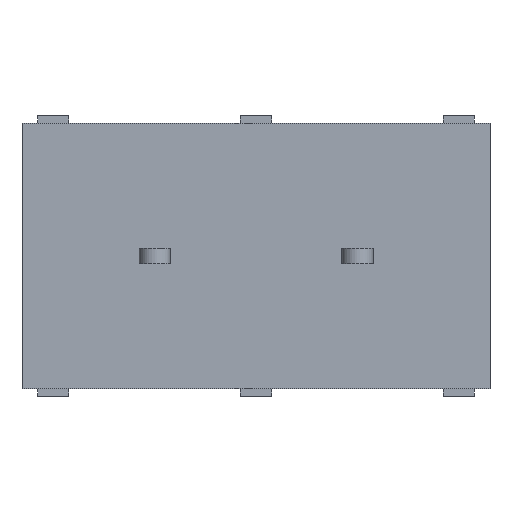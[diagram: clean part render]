
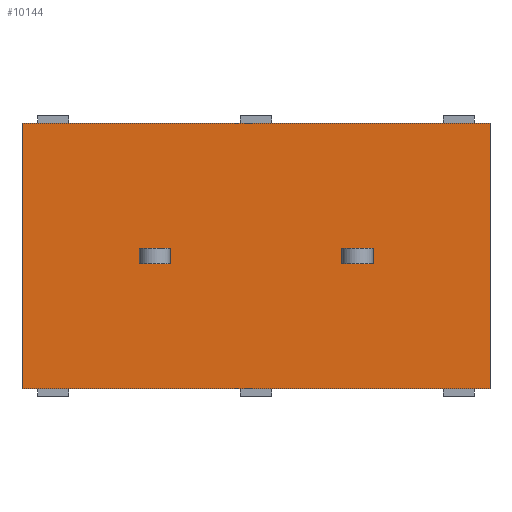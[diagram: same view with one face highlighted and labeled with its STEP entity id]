
A CAD part, front view. The second image highlights one B-rep face of the part: STEP entity #10144.
In plain terms, the highlighted planar face has unit normal (0, -1, 0).
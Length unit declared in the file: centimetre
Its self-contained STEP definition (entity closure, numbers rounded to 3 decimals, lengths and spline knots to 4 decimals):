
#654=VERTEX_POINT('',#12726);
#655=VERTEX_POINT('',#12727);
#675=VERTEX_POINT('',#12780);
#678=VERTEX_POINT('',#12790);
#879=VERTEX_POINT('',#13429);
#880=VERTEX_POINT('',#13431);
#931=VERTEX_POINT('',#13601);
#932=VERTEX_POINT('',#13602);
#935=VERTEX_POINT('',#13624);
#938=VERTEX_POINT('',#13634);
#1288=VERTEX_POINT('',#15157);
#1289=VERTEX_POINT('',#15159);
#1666=VECTOR('',#10780,1.);
#1688=VECTOR('',#10818,1.);
#1692=VECTOR('',#10827,1.);
#1694=VECTOR('',#10832,1.);
#1860=VECTOR('',#11311,1.);
#1933=VECTOR('',#11452,1.);
#1943=VECTOR('',#11475,1.);
#1947=VECTOR('',#11484,1.);
#1948=VECTOR('',#11488,1.);
#2353=VECTOR('',#12043,1.);
#2404=VECTOR('',#12150,1.);
#2405=VECTOR('',#12152,1.);
#2804=LINE('',#12725,#1666);
#2826=LINE('',#12782,#1688);
#2830=LINE('',#12791,#1692);
#2832=LINE('',#12796,#1694);
#2998=LINE('',#13430,#1860);
#3071=LINE('',#13600,#1933);
#3081=LINE('',#13626,#1943);
#3085=LINE('',#13635,#1947);
#3086=LINE('',#13638,#1948);
#3491=LINE('',#15158,#2353);
#3542=LINE('',#15281,#2404);
#3543=LINE('',#15283,#2405);
#3944=EDGE_CURVE('',#654,#655,#2804,.T.);
#3976=EDGE_CURVE('',#655,#675,#2826,.T.);
#3981=EDGE_CURVE('',#678,#654,#2830,.T.);
#3984=EDGE_CURVE('',#675,#678,#2832,.T.);
#4266=EDGE_CURVE('',#880,#879,#2998,.T.);
#4353=EDGE_CURVE('',#931,#932,#3071,.T.);
#4365=EDGE_CURVE('',#931,#935,#3081,.T.);
#4370=EDGE_CURVE('',#932,#938,#3085,.T.);
#4372=EDGE_CURVE('',#938,#935,#3086,.T.);
#4888=EDGE_CURVE('',#1289,#1288,#3491,.T.);
#4950=EDGE_CURVE('',#879,#1289,#3542,.T.);
#4951=EDGE_CURVE('',#880,#1288,#3543,.T.);
#7422=ORIENTED_EDGE('',*,*,#3984,.T.);
#7423=ORIENTED_EDGE('',*,*,#3981,.T.);
#7424=ORIENTED_EDGE('',*,*,#3944,.T.);
#7425=ORIENTED_EDGE('',*,*,#3976,.T.);
#7426=ORIENTED_EDGE('',*,*,#4353,.F.);
#7427=ORIENTED_EDGE('',*,*,#4365,.T.);
#7428=ORIENTED_EDGE('',*,*,#4372,.F.);
#7429=ORIENTED_EDGE('',*,*,#4370,.F.);
#7430=ORIENTED_EDGE('',*,*,#4950,.T.);
#7431=ORIENTED_EDGE('',*,*,#4888,.T.);
#7432=ORIENTED_EDGE('',*,*,#4951,.F.);
#7433=ORIENTED_EDGE('',*,*,#4266,.T.);
#8908=EDGE_LOOP('',(#7422,#7423,#7424,#7425));
#8909=EDGE_LOOP('',(#7426,#7427,#7428,#7429));
#8910=EDGE_LOOP('',(#7430,#7431,#7432,#7433));
#9542=FACE_BOUND('',#8908,.T.);
#9543=FACE_BOUND('',#8909,.T.);
#9544=FACE_BOUND('',#8910,.T.);
#10144=ADVANCED_FACE('',(#9542,#9543,#9544),#10612,.T.);
#10612=PLANE('',#17238);
#10780=DIRECTION('',(-1.,0.,0.));
#10818=DIRECTION('',(0.,0.,1.));
#10827=DIRECTION('',(0.,0.,-1.));
#10832=DIRECTION('',(1.,0.,0.));
#11311=DIRECTION('',(0.,0.,-1.));
#11452=DIRECTION('',(1.,0.,0.));
#11475=DIRECTION('',(0.,0.,1.));
#11484=DIRECTION('',(0.,0.,1.));
#11488=DIRECTION('',(-1.,0.,0.));
#12043=DIRECTION('',(0.,0.,1.));
#12150=DIRECTION('',(1.,0.,0.));
#12151=DIRECTION('',(0.,-1.,0.));
#12152=DIRECTION('',(1.,0.,0.));
#12725=CARTESIAN_POINT('',(2.2275,0.,-0.05));
#12726=CARTESIAN_POINT('',(2.25,0.,-0.05));
#12727=CARTESIAN_POINT('',(2.05,0.,-0.05));
#12780=CARTESIAN_POINT('',(2.05,0.,0.05));
#12782=CARTESIAN_POINT('',(2.05,0.,-0.2275));
#12790=CARTESIAN_POINT('',(2.25,0.,0.05));
#12791=CARTESIAN_POINT('',(2.25,0.,-0.2275));
#12796=CARTESIAN_POINT('',(2.2275,0.,0.05));
#13429=CARTESIAN_POINT('',(0.,0.,-0.85));
#13430=CARTESIAN_POINT('',(0.,0.,0.85));
#13431=CARTESIAN_POINT('',(0.,0.,0.85));
#13600=CARTESIAN_POINT('',(0.3775,0.,-0.05));
#13601=CARTESIAN_POINT('',(0.75,0.,-0.05));
#13602=CARTESIAN_POINT('',(0.95,0.,-0.05));
#13624=CARTESIAN_POINT('',(0.75,0.,0.05));
#13626=CARTESIAN_POINT('',(0.75,0.,-0.455));
#13634=CARTESIAN_POINT('',(0.95,0.,0.05));
#13635=CARTESIAN_POINT('',(0.95,0.,-0.455));
#13638=CARTESIAN_POINT('',(0.3775,0.,0.05));
#15157=CARTESIAN_POINT('',(3.,0.,0.85));
#15158=CARTESIAN_POINT('',(3.,0.,0.85));
#15159=CARTESIAN_POINT('',(3.,0.,-0.85));
#15281=CARTESIAN_POINT('',(2.7,0.,-0.85));
#15282=CARTESIAN_POINT('',(2.7,0.,0.));
#15283=CARTESIAN_POINT('',(2.7,0.,0.85));
#17238=AXIS2_PLACEMENT_3D('',#15282,#12151,$);
